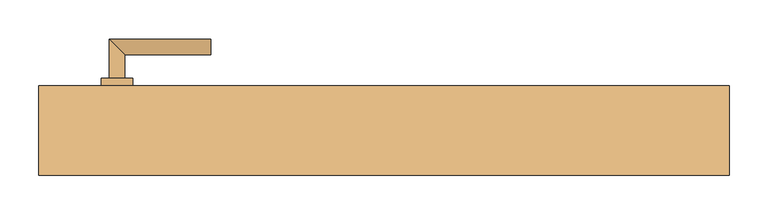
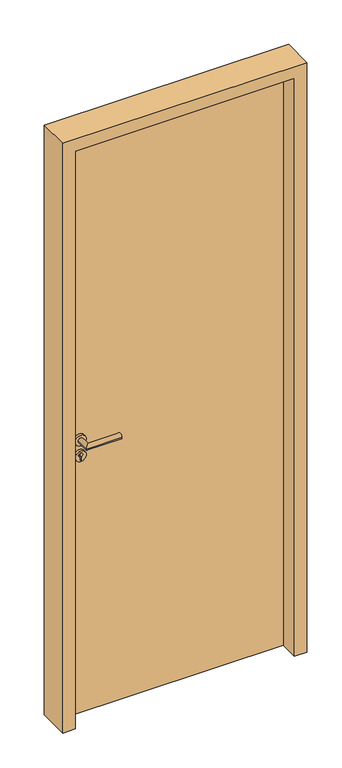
"""IFC4 building model written with IfcOpenShell, lengths in millimetres: door geometry, TU DF 1 - Rahmenstock flächenbündig variabel : ML - H - 885 x 2260."""

from ifc_helpers import new_model, si_unit, point, frame, frame_2d, origin, origin_with_axes, place, context, project, spatial, polyline, circle_curve, ellipse_curve, trimmed, segment, composite_curve, outline, extrude, faceted_brep, source, transform, mapped, element, save
from ifc_brep_helpers import plane_surface, cylinder_surface, advanced_brep


def door_c0c9e2e8(model_context):
    return source(origin(), model_context, "Body", "SolidModel", [
        extrude(outline(polyline([(408.5, 57.5), (408.5, 12.5), (-408.5, 12.5), (-408.5, 57.5), (408.5, 57.5)])), origin_with_axes(), (0.0, 0.0, 1.0), 2226.0),
        advanced_brep(
        [(-332.5, 67.5, 1050.0), (-352.5, 67.5, 1050.0), (-332.5, 97.5, 1050.0), (-352.5, 117.5, 1050.0), (-222.5, 97.5, 1050.0), (-222.5, 117.5, 1050.0)],
        [
            (0, 1, circle_curve(frame((-342.5, 67.5, 1050.0), z_axis=(0.0, -1.0, 0.0), x_axis=(-1.0, 0.0, 0.0)), 10.0)),
            (1, 0, circle_curve(frame((-342.5, 67.5, 1050.0), z_axis=(0.0, -1.0, 0.0), x_axis=(-1.0, 0.0, 0.0)), 10.0)),
            (0, 2),
            (2, 3, ellipse_curve(frame((-342.5, 107.5, 1050.0), z_axis=(-0.7071067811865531, -0.7071067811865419, 0.0), x_axis=(0.707106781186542, -0.707106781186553, 0.0)), 14.1421356, 10.0)),
            (3, 1),
            (3, 2, ellipse_curve(frame((-342.5, 107.5, 1050.0), z_axis=(-0.7071067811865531, -0.7071067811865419, 0.0), x_axis=(0.707106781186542, -0.707106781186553, 0.0)), 14.1421356, 10.0)),
            (4, 5, circle_curve(frame((-222.5, 107.5, 1050.0), z_axis=(1.0, 0.0, 0.0), x_axis=(0.0, 1.0, 0.0)), 10.0)),
            (5, 4, circle_curve(frame((-222.5, 107.5, 1050.0), z_axis=(1.0, 0.0, 0.0), x_axis=(0.0, 1.0, 0.0)), 10.0)),
            (2, 4),
            (5, 3),
        ],
        [
            plane_surface(frame((-342.5, 67.5, 1050.0), z_axis=(0.0, -1.0, 0.0), x_axis=(0.0, 0.0, 1.0))),
            cylinder_surface(frame((-342.5, 67.5, 1050.0), z_axis=(0.0, -1.0, 0.0), x_axis=(-1.0, 0.0, 0.0)), 10.0),
            plane_surface(frame((-222.5, 107.5, 1050.0), z_axis=(1.0, 0.0, 0.0), x_axis=(0.0, 0.0, 1.0))),
            cylinder_surface(frame((-342.5, 107.5, 1050.0), z_axis=(-1.0, 0.0, 0.0), x_axis=(0.0, 1.0, 0.0)), 10.0),
        ],
        [
            (0, [[1, 2]]),
            (1, [[-1, 3, 4, 5]]),
            (1, [[-2, -5, 6, -3]]),
            (2, [[7, 8]]),
            (3, [[-4, 9, -8, 10]]),
            (3, [[-6, -10, -7, -9]]),
        ],
    ),
        extrude(outline(composite_curve([segment(trimmed(circle_curve(frame_2d((990.0, -342.5)), 20.0), [point((990.0, -362.5))], [point((990.0, -322.5))], False, "CARTESIAN"), True, "CONTINUOUS"), segment(trimmed(circle_curve(frame_2d((990.0, -342.5)), 20.0), [point((990.0, -322.5))], [point((990.0, -362.5))], False, "CARTESIAN"), True, "CONTINUOUS")], self_intersect=False), holes=[composite_curve([segment(polyline([(976.4601385, -344.897268), (988.4749012, -344.897268)]), True, "CONTINUOUS"), segment(trimmed(circle_curve(frame_2d((995.0361633, -342.5)), 6.9854888), [point((988.4749012, -344.897268))], [point((988.4749012, -340.102732))], True, "CARTESIAN"), True, "CONTINUOUS"), segment(polyline([(988.4749012, -340.102732), (976.4601385, -340.102732)]), True, "CONTINUOUS"), segment(trimmed(circle_curve(frame_2d((976.4601385, -342.5)), 2.397268), [point((976.4601385, -340.102732))], [point((976.4601385, -344.897268))], True, "CARTESIAN"), True, "CONTINUOUS")], self_intersect=False)]), frame((0.0, 57.5, 0.0), z_axis=(0.0, 1.0, 0.0), x_axis=(0.0, 0.0, 1.0)), (0.0, 0.0, 1.0), 10.0),
        advanced_brep(
        [(-332.5, 67.5, 1050.0), (-352.5, 67.5, 1050.0), (-332.5, 97.5, 1050.0), (-352.5, 117.5, 1050.0), (-222.5, 97.5, 1050.0), (-222.5, 117.5, 1050.0)],
        [
            (0, 1, circle_curve(frame((-342.5, 67.5, 1050.0), z_axis=(0.0, -1.0, 0.0), x_axis=(-1.0, 0.0, 0.0)), 10.0)),
            (1, 0, circle_curve(frame((-342.5, 67.5, 1050.0), z_axis=(0.0, -1.0, 0.0), x_axis=(-1.0, 0.0, 0.0)), 10.0)),
            (0, 2),
            (2, 3, ellipse_curve(frame((-342.5, 107.5, 1050.0), z_axis=(-0.7071067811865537, -0.7071067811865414, 0.0), x_axis=(0.7071067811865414, -0.7071067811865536, 0.0)), 14.1421356, 10.0)),
            (3, 1),
            (3, 2, ellipse_curve(frame((-342.5, 107.5, 1050.0), z_axis=(-0.7071067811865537, -0.7071067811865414, 0.0), x_axis=(0.7071067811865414, -0.7071067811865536, 0.0)), 14.1421356, 10.0)),
            (4, 5, circle_curve(frame((-222.5, 107.5, 1050.0), z_axis=(1.0, 0.0, 0.0), x_axis=(0.0, 1.0, 0.0)), 10.0)),
            (5, 4, circle_curve(frame((-222.5, 107.5, 1050.0), z_axis=(1.0, 0.0, 0.0), x_axis=(0.0, 1.0, 0.0)), 10.0)),
            (2, 4),
            (5, 3),
        ],
        [
            plane_surface(frame((-342.5, 67.5, 1050.0), z_axis=(0.0, -1.0, 0.0), x_axis=(0.0, 0.0, 1.0))),
            cylinder_surface(frame((-342.5, 67.5, 1050.0), z_axis=(0.0, -1.0, 0.0), x_axis=(-1.0, 0.0, 0.0)), 10.0),
            plane_surface(frame((-222.5, 107.5, 1050.0), z_axis=(1.0, 0.0, 0.0), x_axis=(0.0, 0.0, 1.0))),
            cylinder_surface(frame((-342.5, 107.5, 1050.0), z_axis=(-1.0, 0.0, 0.0), x_axis=(0.0, 1.0, 0.0)), 10.0),
        ],
        [
            (0, [[1, 2]]),
            (1, [[-1, 3, 4, 5]]),
            (1, [[-2, -5, 6, -3]]),
            (2, [[7, 8]]),
            (3, [[-4, 9, -8, 10]]),
            (3, [[-6, -10, -7, -9]]),
        ],
    ),
        extrude(outline(composite_curve([segment(trimmed(circle_curve(frame_2d((1050.0, -342.5)), 20.0), [point((1050.0, -362.5))], [point((1050.0, -322.5))], False, "CARTESIAN"), True, "CONTINUOUS"), segment(trimmed(circle_curve(frame_2d((1050.0, -342.5)), 20.0), [point((1050.0, -322.5))], [point((1050.0, -362.5))], False, "CARTESIAN"), True, "CONTINUOUS")], self_intersect=False)), frame((0.0, 57.5, 0.0), z_axis=(0.0, 1.0, 0.0), x_axis=(0.0, 0.0, 1.0)), (0.0, 0.0, 1.0), 10.0),
        advanced_brep(
        [(-332.5, 2.5, 1050.0), (-352.5, 2.5, 1050.0), (-352.5, -47.5, 1050.0), (-332.5, -27.5, 1050.0), (-222.5, -27.5, 1050.0), (-222.5, -47.5, 1050.0)],
        [
            (0, 1, circle_curve(frame((-342.5, 2.5, 1050.0), z_axis=(0.0, 1.0, 0.0), x_axis=(-1.0, 0.0, 0.0)), 10.0)),
            (1, 0, circle_curve(frame((-342.5, 2.5, 1050.0), z_axis=(0.0, 1.0, 0.0), x_axis=(-1.0, 0.0, 0.0)), 10.0)),
            (1, 2),
            (2, 3, ellipse_curve(frame((-342.5, -37.5, 1050.0), z_axis=(-0.7071067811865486, 0.7071067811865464, 0.0), x_axis=(0.7071067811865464, 0.7071067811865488, 0.0)), 14.1421356, 10.0)),
            (3, 0),
            (3, 2, ellipse_curve(frame((-342.5, -37.5, 1050.0), z_axis=(-0.7071067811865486, 0.7071067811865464, 0.0), x_axis=(0.7071067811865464, 0.7071067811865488, 0.0)), 14.1421356, 10.0)),
            (4, 5, circle_curve(frame((-222.5, -37.5, 1050.0), z_axis=(1.0, 0.0, 0.0), x_axis=(0.0, -1.0, 0.0)), 10.0)),
            (5, 4, circle_curve(frame((-222.5, -37.5, 1050.0), z_axis=(1.0, 0.0, 0.0), x_axis=(0.0, -1.0, 0.0)), 10.0)),
            (2, 5),
            (4, 3),
        ],
        [
            plane_surface(frame((-342.5, 2.5, 1050.0), z_axis=(0.0, 1.0, 0.0), x_axis=(0.0, 0.0, 1.0))),
            cylinder_surface(frame((-342.5, 2.5, 1050.0), z_axis=(0.0, 1.0, 0.0), x_axis=(-1.0, 0.0, 0.0)), 10.0),
            plane_surface(frame((-222.5, -37.5, 1050.0), z_axis=(1.0, 0.0, 0.0), x_axis=(0.0, 0.0, 1.0))),
            cylinder_surface(frame((-342.5, -37.5, 1050.0), z_axis=(-1.0, 0.0, 0.0), x_axis=(0.0, -1.0, 0.0)), 10.0),
        ],
        [
            (0, [[1, 2]]),
            (1, [[3, 4, 5, -2]]),
            (1, [[-5, 6, -3, -1]]),
            (2, [[7, 8]]),
            (3, [[9, -7, 10, -4]]),
            (3, [[-10, -8, -9, -6]]),
        ],
    ),
        extrude(outline(composite_curve([segment(trimmed(circle_curve(frame_2d((990.0, -342.5)), 20.0), [point((990.0, -362.5))], [point((990.0, -322.5))], False, "CARTESIAN"), True, "CONTINUOUS"), segment(trimmed(circle_curve(frame_2d((990.0, -342.5)), 20.0), [point((990.0, -322.5))], [point((990.0, -362.5))], False, "CARTESIAN"), True, "CONTINUOUS")], self_intersect=False), holes=[composite_curve([segment(polyline([(976.4601385, -344.897268), (988.4749012, -344.897268)]), True, "CONTINUOUS"), segment(trimmed(circle_curve(frame_2d((995.0361633, -342.5)), 6.9854888), [point((988.4749012, -344.897268))], [point((988.4749012, -340.102732))], True, "CARTESIAN"), True, "CONTINUOUS"), segment(polyline([(988.4749012, -340.102732), (976.4601385, -340.102732)]), True, "CONTINUOUS"), segment(trimmed(circle_curve(frame_2d((976.4601385, -342.5)), 2.397268), [point((976.4601385, -340.102732))], [point((976.4601385, -344.897268))], True, "CARTESIAN"), True, "CONTINUOUS")], self_intersect=False)]), frame((0.0, 2.5, 0.0), z_axis=(0.0, 1.0, 0.0), x_axis=(0.0, 0.0, 1.0)), (0.0, 0.0, 1.0), 10.0),
        advanced_brep(
        [(-332.5, 2.5, 1050.0), (-352.5, 2.5, 1050.0), (-352.5, -47.5, 1050.0), (-332.5, -27.5, 1050.0), (-222.5, -27.5, 1050.0), (-222.5, -47.5, 1050.0)],
        [
            (0, 1, circle_curve(frame((-342.5, 2.5, 1050.0), z_axis=(0.0, 1.0, 0.0), x_axis=(-1.0, 0.0, 0.0)), 10.0)),
            (1, 0, circle_curve(frame((-342.5, 2.5, 1050.0), z_axis=(0.0, 1.0, 0.0), x_axis=(-1.0, 0.0, 0.0)), 10.0)),
            (1, 2),
            (2, 3, ellipse_curve(frame((-342.5, -37.5, 1050.0), z_axis=(-0.7071067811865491, 0.7071067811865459, 0.0), x_axis=(0.7071067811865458, 0.7071067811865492, 0.0)), 14.1421356, 10.0)),
            (3, 0),
            (3, 2, ellipse_curve(frame((-342.5, -37.5, 1050.0), z_axis=(-0.7071067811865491, 0.7071067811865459, 0.0), x_axis=(0.7071067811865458, 0.7071067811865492, 0.0)), 14.1421356, 10.0)),
            (4, 5, circle_curve(frame((-222.5, -37.5, 1050.0), z_axis=(1.0, 0.0, 0.0), x_axis=(0.0, -1.0, 0.0)), 10.0)),
            (5, 4, circle_curve(frame((-222.5, -37.5, 1050.0), z_axis=(1.0, 0.0, 0.0), x_axis=(0.0, -1.0, 0.0)), 10.0)),
            (2, 5),
            (4, 3),
        ],
        [
            plane_surface(frame((-342.5, 2.5, 1050.0), z_axis=(0.0, 1.0, 0.0), x_axis=(0.0, 0.0, 1.0))),
            cylinder_surface(frame((-342.5, 2.5, 1050.0), z_axis=(0.0, 1.0, 0.0), x_axis=(-1.0, 0.0, 0.0)), 10.0),
            plane_surface(frame((-222.5, -37.5, 1050.0), z_axis=(1.0, 0.0, 0.0), x_axis=(0.0, 0.0, 1.0))),
            cylinder_surface(frame((-342.5, -37.5, 1050.0), z_axis=(-1.0, 0.0, 0.0), x_axis=(0.0, -1.0, 0.0)), 10.0),
        ],
        [
            (0, [[1, 2]]),
            (1, [[3, 4, 5, -2]]),
            (1, [[-5, 6, -3, -1]]),
            (2, [[7, 8]]),
            (3, [[9, -7, 10, -4]]),
            (3, [[-10, -8, -9, -6]]),
        ],
    ),
        extrude(outline(composite_curve([segment(trimmed(circle_curve(frame_2d((1050.0, -342.5)), 20.0), [point((1050.0, -362.5))], [point((1050.0, -322.5))], False, "CARTESIAN"), True, "CONTINUOUS"), segment(trimmed(circle_curve(frame_2d((1050.0, -342.5)), 20.0), [point((1050.0, -322.5))], [point((1050.0, -362.5))], False, "CARTESIAN"), True, "CONTINUOUS")], self_intersect=False)), frame((0.0, 2.5, 0.0), z_axis=(0.0, 1.0, 0.0), x_axis=(0.0, 0.0, 1.0)), (0.0, 0.0, 1.0), 10.0),
        faceted_brep([(-412.5, 57.5, 0.0), (-412.5, 12.5, 0.0), (-397.5, 12.5, 0.0), (-397.5, -57.5, 0.0), (-442.5, -57.5, 0.0), (-442.5, 57.5, 0.0), (-412.5, 57.5, 2230.0), (-412.5, 12.5, 2230.0), (412.5, 12.5, 2230.0), (412.5, 12.5, 0.0), (397.5, 12.5, 0.0), (397.5, 12.5, 2215.0), (-397.5, 12.5, 2215.0), (-397.5, -57.5, 2215.0), (397.5, -57.5, 2215.0), (397.5, -57.5, 0.0), (442.5, -57.5, 0.0), (442.5, -57.5, 2260.0), (-442.5, -57.5, 2260.0), (-442.5, 57.5, 2260.0), (442.5, 57.5, 2260.0), (442.5, 57.5, 0.0), (412.5, 57.5, 0.0), (412.5, 57.5, 2230.0)], [[[0, 1, 2, 3, 4, 5]], [[1, 0, 6, 7]], [[2, 1, 7, 8, 9, 10, 11, 12]], [[3, 2, 12, 13]], [[4, 3, 13, 14, 15, 16, 17, 18]], [[5, 4, 18, 19]], [[0, 5, 19, 20, 21, 22, 23, 6]], [[20, 17, 16, 21]], [[22, 21, 16, 15, 10, 9]], [[8, 23, 22, 9]], [[14, 11, 10, 15]], [[19, 18, 17, 20]], [[13, 12, 11, 14]], [[7, 6, 23, 8]]]),
    ])


if __name__ == "__main__":
    model = new_model("IFC4")
    model_context = context("Model", 3, world=origin())
    ifc_project = project(units=[si_unit("LENGTHUNIT", "METRE", prefix="MILLI")], contexts=[model_context])
    site = spatial("IfcSite", under=ifc_project)
    building = spatial("IfcBuilding", under=site)
    placement = place(None, origin())
    door_shape = door_c0c9e2e8(model_context)
    element("IfcDoor", 1, ObjectType="TU DF 1 - Rahmenstock flächenbündig variabel : ML - H - 885 x 2260", at=placement, inside=building, context=model_context, shape_type="MappedRepresentation", body=[
        mapped(door_shape, transform((0.0, 0.0, 0.0), x_axis=(1.0, 0.0, 0.0), y_axis=(0.0, 1.0, 0.0), z_axis=(0.0, 0.0, 1.0))),
    ])
    save(model, "model.ifc")
